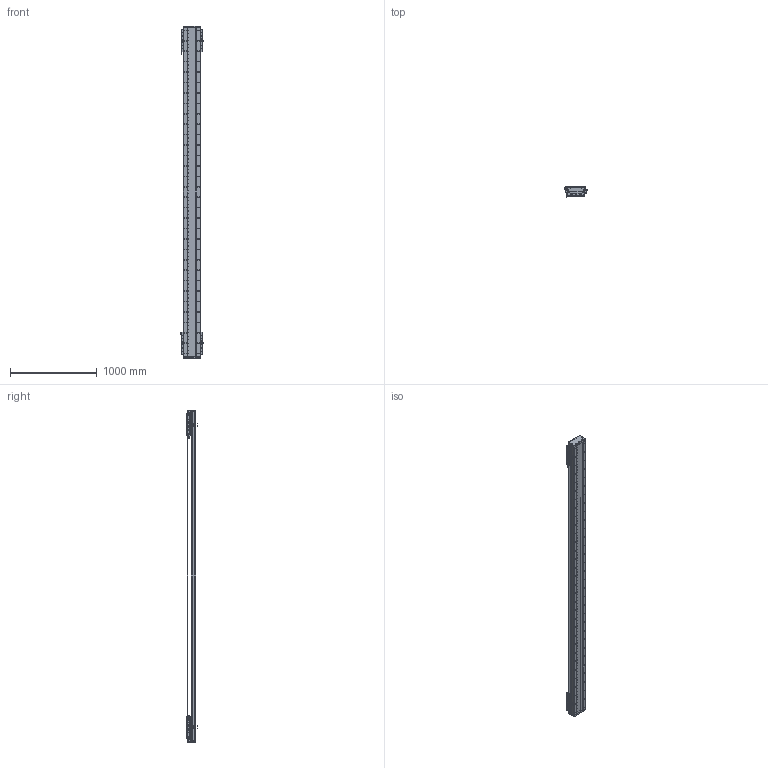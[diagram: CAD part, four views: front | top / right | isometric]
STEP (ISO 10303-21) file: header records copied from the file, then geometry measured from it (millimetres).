
FILE_DESCRIPTION (( 'STEP AP203' ), '1' );
FILE_NAME ('DA-C195-2-C3-T3200-C010-0.2 眻盄萇儂.STEP', '2025-08-15T00:54:37', ( '' ), ( '' ), 'SwSTEP 2.0', 'SolidWorks 2019', '' );
FILE_SCHEMA (( 'CONFIG_CONTROL_DESIGN' ));
Length unit declared in the file: millimetre
Products named in the file (19): DKW168-HXJ-ZJ-00 笢潔滅袉砎蝶; DA195詩湍菜輸; DA195詩湍郪璃; DKW-KGZ-ZJ-00 中间光电开关支架; 葩璃 DA95-GT-T-00; DA195詩湍裔啣; DA-C195-2-C3-T3200-C010-0.2 眻盄萇儂; IU-CU195-L-00 菁釱(L3780); PM-T45ㄗ侂狟ㄘ; DA-C195-GD-DB-H-00 傷啣; DA165-GYP-00 光电感应片(默认); CU195-C3賑輸-俋楷; IU-CU195-L 菁釱絳寢; DKW-GYP-ZJ-00 笢潔嫖萇覜茼え; LMT黍杅芛; DA95-HXJ-00 遣喳砎蝶; PM-Y65嫖萇羲壽郪璃; MS200 棠掑喜S315-T240; DA195詩湍嶺輸
Assembly tree (37 placements, depth 3):
  DA-C195-2-C3-T3200-C010-0.2 眻盄萇儂
    DA195詩湍郪璃
      DA195詩湍菜輸  x2
      DA195詩湍裔啣
      DA195詩湍嶺輸  x2
      DA95-HXJ-00 遣喳砎蝶  x8
      DA-C195-GD-DB-H-00 傷啣  x2
    IU-CU195-L 菁釱絳寢
      IU-CU195-L-00 菁釱(L3780)
      葩璃 DA95-GT-T-00  x4
    LMT黍杅芛  x2
    MS200 棠掑喜S315-T240
    PM-T45ㄗ侂狟ㄘ  x4
    DA165-GYP-00 光电感应片(默认)  x2
    PM-Y65嫖萇羲壽郪璃
    DKW168-HXJ-ZJ-00 笢潔滅袉砎蝶
    DKW-GYP-ZJ-00 笢潔嫖萇覜茼え
    DKW-KGZ-ZJ-00 中间光电开关支架
    CU195-C3賑輸-俋楷  x2
Bounding box: 258.2 x 115.45 x 3820 mm (x, y, z)
Volume: 23059580.6 mm3; surface area: 6742594 mm2
Topology: 154 solids, 218 shells, 7401 faces, 20391 edges, 12789 vertices
Faces by surface type: cylinder 3778, plane 2571, cone 884, torus 88, sphere 72, bspline 8
Entity records: 176259 total; most frequent: CARTESIAN_POINT 50525, ORIENTED_EDGE 26798, DIRECTION 24744, EDGE_CURVE 13399, AXIS2_PLACEMENT_3D 9157, VERTEX_POINT 8714, VECTOR 6430, LINE 6430
